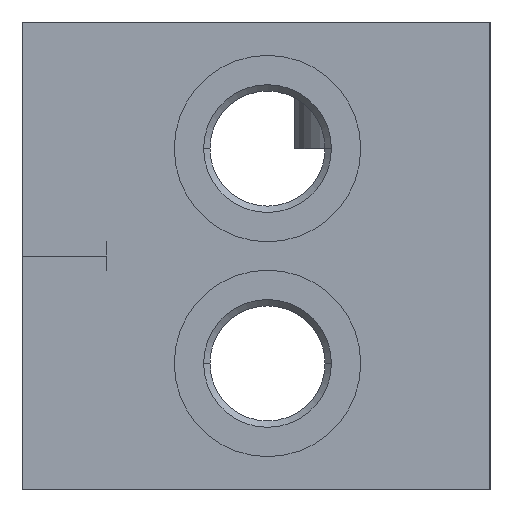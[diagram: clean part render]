
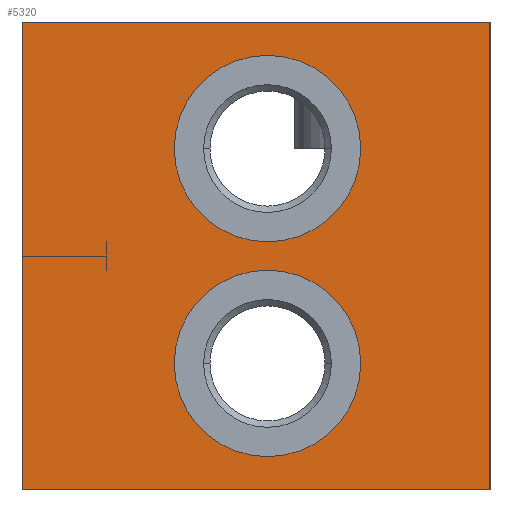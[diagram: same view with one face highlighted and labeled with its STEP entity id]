
A CAD part, left-side view. The second image highlights one B-rep face of the part: STEP entity #5320.
In plain terms, the highlighted planar face has unit normal (-1, 0, 0).
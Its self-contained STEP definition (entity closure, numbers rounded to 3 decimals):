
#25=DIRECTION('',(0.,-1.,0.));
#26=VECTOR('',#25,61.);
#27=CARTESIAN_POINT('',(0.,61.,0.));
#28=LINE('',#27,#26);
#137=DIRECTION('',(0.,0.,-1.));
#138=VECTOR('',#137,61.);
#139=CARTESIAN_POINT('',(0.,0.,0.));
#140=LINE('',#139,#138);
#949=DIRECTION('',(0.,0.,-1.));
#950=VECTOR('',#949,61.);
#951=CARTESIAN_POINT('',(0.,61.,0.));
#952=LINE('',#951,#950);
#953=CARTESIAN_POINT('',(0.,29.,-44.5));
#954=DIRECTION('',(1.,0.,0.));
#955=DIRECTION('',(0.,-1.,0.));
#956=AXIS2_PLACEMENT_3D('',#953,#954,#955);
#958=CARTESIAN_POINT('',(0.,29.,-44.5));
#959=DIRECTION('',(1.,0.,0.));
#960=DIRECTION('',(0.,1.,0.));
#961=AXIS2_PLACEMENT_3D('',#958,#959,#960);
#963=CARTESIAN_POINT('',(0.,29.,-16.5));
#964=DIRECTION('',(1.,0.,0.));
#965=DIRECTION('',(0.,-1.,0.));
#966=AXIS2_PLACEMENT_3D('',#963,#964,#965);
#968=CARTESIAN_POINT('',(0.,29.,-16.5));
#969=DIRECTION('',(1.,0.,0.));
#970=DIRECTION('',(0.,1.,0.));
#971=AXIS2_PLACEMENT_3D('',#968,#969,#970);
#985=DIRECTION('',(0.,-1.,0.));
#986=VECTOR('',#985,61.);
#987=CARTESIAN_POINT('',(0.,61.,-61.));
#988=LINE('',#987,#986);
#4111=CARTESIAN_POINT('',(0.,0.,0.));
#4113=VERTEX_POINT('',#4111);
#4117=CARTESIAN_POINT('',(0.,61.,0.));
#4118=VERTEX_POINT('',#4117);
#4119=CARTESIAN_POINT('',(0.,0.,-61.));
#4121=VERTEX_POINT('',#4119);
#4125=CARTESIAN_POINT('',(0.,61.,-61.));
#4126=VERTEX_POINT('',#4125);
#4139=CARTESIAN_POINT('',(0.,16.85,-44.5));
#4140=CARTESIAN_POINT('',(0.,41.15,-44.5));
#4141=VERTEX_POINT('',#4139);
#4142=VERTEX_POINT('',#4140);
#4155=CARTESIAN_POINT('',(0.,16.85,-16.5));
#4156=CARTESIAN_POINT('',(0.,41.15,-16.5));
#4157=VERTEX_POINT('',#4155);
#4158=VERTEX_POINT('',#4156);
#5296=CARTESIAN_POINT('',(0.,61.,0.));
#5297=DIRECTION('',(-1.,0.,0.));
#5298=DIRECTION('',(0.,-1.,0.));
#5299=AXIS2_PLACEMENT_3D('',#5296,#5297,#5298);
#5300=PLANE('',#5299);
#5301=ORIENTED_EDGE('',*,*,#4920,.T.);
#5302=ORIENTED_EDGE('',*,*,#4999,.T.);
#5304=ORIENTED_EDGE('',*,*,#5303,.F.);
#5305=ORIENTED_EDGE('',*,*,#5078,.F.);
#5306=EDGE_LOOP('',(#5301,#5302,#5304,#5305));
#5307=FACE_OUTER_BOUND('',#5306,.F.);
#5309=ORIENTED_EDGE('',*,*,#5308,.F.);
#5311=ORIENTED_EDGE('',*,*,#5310,.F.);
#5312=EDGE_LOOP('',(#5309,#5311));
#5313=FACE_BOUND('',#5312,.F.);
#5315=ORIENTED_EDGE('',*,*,#5314,.F.);
#5317=ORIENTED_EDGE('',*,*,#5316,.F.);
#5318=EDGE_LOOP('',(#5315,#5317));
#5319=FACE_BOUND('',#5318,.F.);
#957=CIRCLE('',#956,12.15);
#962=CIRCLE('',#961,12.15);
#967=CIRCLE('',#966,12.15);
#972=CIRCLE('',#971,12.15);
#4920=EDGE_CURVE('',#4118,#4113,#28,.T.);
#4999=EDGE_CURVE('',#4113,#4121,#140,.T.);
#5078=EDGE_CURVE('',#4118,#4126,#952,.T.);
#5303=EDGE_CURVE('',#4126,#4121,#988,.T.);
#5308=EDGE_CURVE('',#4141,#4142,#957,.T.);
#5310=EDGE_CURVE('',#4142,#4141,#962,.T.);
#5314=EDGE_CURVE('',#4157,#4158,#967,.T.);
#5316=EDGE_CURVE('',#4158,#4157,#972,.T.);
#5320=ADVANCED_FACE('',(#5307,#5313,#5319),#5300,.T.);
